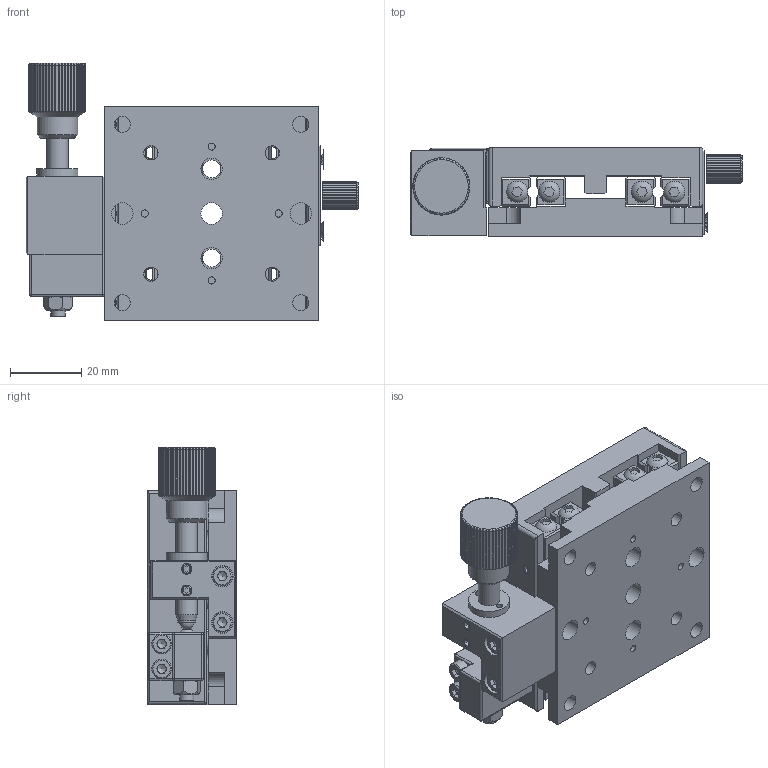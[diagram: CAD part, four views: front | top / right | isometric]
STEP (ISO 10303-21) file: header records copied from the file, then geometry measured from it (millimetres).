
FILE_DESCRIPTION (( 'STEP AP203' ), '1' );
FILE_NAME ('TSS60X-05A.step', '2017-01-10T09:21:40', ( '¦K¬P' ), ( '' ), 'SwSTEP 2.0', 'SolidWorks 2012', '' );
FILE_SCHEMA (( 'CONFIG_CONTROL_DESIGN' ));
Length unit declared in the file: millimetre
Products named in the file (1): TSS60X-05A
Bounding box: 93 x 25 x 72.05 mm (x, y, z)
Surface area: 35840.3 mm2 (no closed solid volume)
Topology: 0 solids, 34 shells, 747 faces, 2214 edges, 1460 vertices
Faces by surface type: plane 537, cylinder 170, cone 21, sphere 10, torus 9
Full cylindrical faces by diameter (mm): 1.7 x2, 2 x8, 3 x8, 3.3 x10, 4 x5, 4.5 x4, 5 x3, 5.5 x2, 6 x8, 10 x1, 11.4 x1, 11.5 x1, 16 x1
Entity records: 24914 total; most frequent: CARTESIAN_POINT 5867, ORIENTED_EDGE 3788, DIRECTION 3678, EDGE_CURVE 2091, VERTEX_POINT 1432, VECTOR 1280, LINE 1280, AXIS2_PLACEMENT_3D 1199
